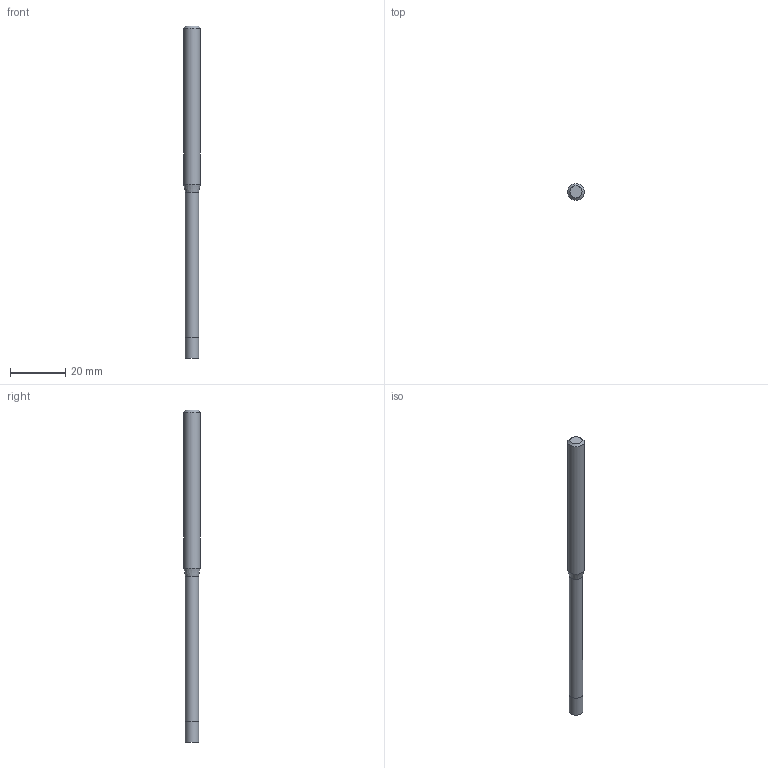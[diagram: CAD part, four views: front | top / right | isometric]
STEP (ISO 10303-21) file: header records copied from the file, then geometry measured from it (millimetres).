
FILE_DESCRIPTION((''),'2;1');
FILE_NAME('C:\Users\nsx150\AppData\Local\Temp\Mastercam 2021\17T8Q8S9EB\TEMP.step','2021-04-21T14:29:06',(''),(''),'STEP Write','Mastercam 2021 ... CNC Software, Inc.','');
FILE_SCHEMA(('AUTOMOTIVE_DESIGN'));
Length unit declared in the file: millimetre
Products named in the file (1): None
Bounding box: 6 x 6 x 120 mm (x, y, z)
Volume: 2773.3 mm3; surface area: 2112.2 mm2
Topology: 2 solids, 2 shells, 9 faces, 12 edges, 7 vertices
Faces by surface type: plane 4, cylinder 3, cone 2
Full cylindrical faces by diameter (mm): 4.8 x1, 5 x1, 6 x1
Entity records: 211 total; most frequent: DIRECTION 36, CARTESIAN_POINT 25, AXIS2_PLACEMENT_3D 18, ORIENTED_EDGE 14, EDGE_LOOP 14, STYLED_ITEM 12, ADVANCED_FACE 9, FACE_BOUND 8
